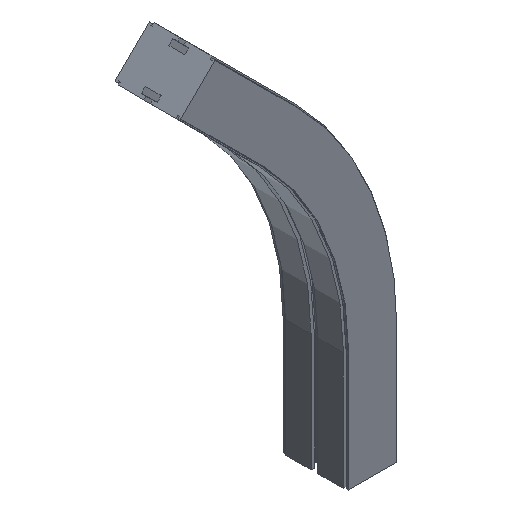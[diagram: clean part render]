
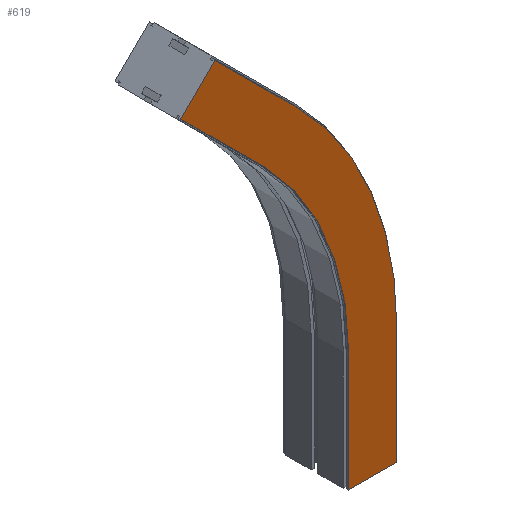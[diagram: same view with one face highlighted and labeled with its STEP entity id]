
A CAD part, isometric view. The second image highlights one B-rep face of the part: STEP entity #619.
In plain terms, the highlighted planar face has unit normal (0, -1, 0).
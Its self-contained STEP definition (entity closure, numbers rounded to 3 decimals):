
#32 = DIRECTION ( 'NONE',  ( 0., -1., 0. ) ) ;
#84 = DIRECTION ( 'NONE',  ( -0.707, 0., -0.707 ) ) ;
#122 = CARTESIAN_POINT ( 'NONE',  ( -244.896, -42., 517.236 ) ) ;
#197 = LINE ( 'NONE', #1123, #848 ) ;
#226 = VERTEX_POINT ( 'NONE', #2775 ) ;
#239 = EDGE_CURVE ( 'NONE', #226, #2346, #197, .T. ) ;
#273 = CARTESIAN_POINT ( 'NONE',  ( -138.83, -42., 411.17 ) ) ;
#275 = EDGE_CURVE ( 'NONE', #2586, #2346, #2296, .T. ) ;
#373 = LINE ( 'NONE', #755, #1785 ) ;
#422 = CARTESIAN_POINT ( 'NONE',  ( 30.65, -42., 150. ) ) ;
#492 = VECTOR ( 'NONE', #84, 1000. ) ;
#524 = PLANE ( 'NONE',  #2982 ) ;
#583 = CARTESIAN_POINT ( 'NONE',  ( -95.484, -42., 454.516 ) ) ;
#619 = ADVANCED_FACE ( 'NONE', ( #1636 ), #524, .T. ) ;
#725 = CARTESIAN_POINT ( 'NONE',  ( -30.65, -42., 150. ) ) ;
#755 = CARTESIAN_POINT ( 'NONE',  ( -95.484, -42., 454.516 ) ) ;
#759 = VERTEX_POINT ( 'NONE', #2991 ) ;
#778 = ORIENTED_EDGE ( 'NONE', *, *, #239, .F. ) ;
#797 = CARTESIAN_POINT ( 'NONE',  ( -30.65, -42., 150. ) ) ;
#815 = EDGE_CURVE ( 'NONE', #759, #2183, #2769, .T. ) ;
#848 = VECTOR ( 'NONE', #2806, 1000. ) ;
#914 = EDGE_CURVE ( 'NONE', #2623, #2183, #2020, .T. ) ;
#997 = DIRECTION ( 'NONE',  ( 0., -1., 0. ) ) ;
#1000 = ORIENTED_EDGE ( 'NONE', *, *, #914, .F. ) ;
#1029 = CARTESIAN_POINT ( 'NONE',  ( -400., -42., 150. ) ) ;
#1118 = EDGE_CURVE ( 'Edge42', #2260, #759, #373, .T. ) ;
#1123 = CARTESIAN_POINT ( 'NONE',  ( -30.65, -42., 0. ) ) ;
#1235 = DIRECTION ( 'NONE',  ( 0., 0., -1. ) ) ;
#1253 = DIRECTION ( 'NONE',  ( -0.707, 0., 0.707 ) ) ;
#1323 = CARTESIAN_POINT ( 'NONE',  ( -30.65, -42., 0. ) ) ;
#1441 = EDGE_LOOP ( 'NONE', ( #778, #2271, #2304, #3091, #2459, #1000, #2670, #1909 ) ) ;
#1452 = VECTOR ( 'NONE', #1885, 1000. ) ;
#1466 = AXIS2_PLACEMENT_3D ( 'NONE', #1029, #32, #2945 ) ;
#1469 = DIRECTION ( 'NONE',  ( 0., -1., 0. ) ) ;
#1592 = DIRECTION ( 'NONE',  ( 0., 0., -1. ) ) ;
#1636 = FACE_OUTER_BOUND ( 'NONE', #1441, .T. ) ;
#1638 = VECTOR ( 'NONE', #1592, 1000. ) ;
#1652 = EDGE_CURVE ( 'Edge18', #2153, #2260, #2963, .T. ) ;
#1682 = CARTESIAN_POINT ( 'NONE',  ( -400., -42., 150. ) ) ;
#1785 = VECTOR ( 'NONE', #1253, 1000. ) ;
#1813 = CARTESIAN_POINT ( 'NONE',  ( -30.65, -42., 150. ) ) ;
#1885 = DIRECTION ( 'NONE',  ( -0.707, 0., 0.707 ) ) ;
#1909 = ORIENTED_EDGE ( 'NONE', *, *, #275, .T. ) ;
#1973 = DIRECTION ( 'NONE',  ( 1., 0., 0. ) ) ;
#2020 = LINE ( 'NONE', #2124, #1452 ) ;
#2124 = CARTESIAN_POINT ( 'NONE',  ( -138.83, -42., 411.17 ) ) ;
#2153 = VERTEX_POINT ( 'NONE', #2658 ) ;
#2183 = VERTEX_POINT ( 'NONE', #2922 ) ;
#2260 = VERTEX_POINT ( 'NONE', #583 ) ;
#2271 = ORIENTED_EDGE ( 'NONE', *, *, #3106, .F. ) ;
#2296 = LINE ( 'NONE', #1813, #1638 ) ;
#2304 = ORIENTED_EDGE ( 'NONE', *, *, #1652, .T. ) ;
#2346 = VERTEX_POINT ( 'NONE', #1323 ) ;
#2459 = ORIENTED_EDGE ( 'NONE', *, *, #815, .T. ) ;
#2586 = VERTEX_POINT ( 'NONE', #725 ) ;
#2623 = VERTEX_POINT ( 'NONE', #273 ) ;
#2658 = CARTESIAN_POINT ( 'NONE',  ( 30.65, -42., 150. ) ) ;
#2670 = ORIENTED_EDGE ( 'NONE', *, *, #2962, .F. ) ;
#2769 = LINE ( 'NONE', #122, #492 ) ;
#2775 = CARTESIAN_POINT ( 'NONE',  ( 30.65, -42., 0. ) ) ;
#2793 = CIRCLE ( 'NONE', #1466, 369.35 ) ;
#2806 = DIRECTION ( 'NONE',  ( -1., 0., 0. ) ) ;
#2922 = CARTESIAN_POINT ( 'NONE',  ( -244.896, -42., 517.236 ) ) ;
#2945 = DIRECTION ( 'NONE',  ( 0., 0., -1. ) ) ;
#2962 = EDGE_CURVE ( 'NONE', #2586, #2623, #2793, .T. ) ;
#2963 = CIRCLE ( 'NONE', #3061, 430.65 ) ;
#2982 = AXIS2_PLACEMENT_3D ( 'NONE', #797, #997, #1973 ) ;
#2991 = CARTESIAN_POINT ( 'NONE',  ( -201.55, -42., 560.582 ) ) ;
#3026 = LINE ( 'NONE', #422, #3100 ) ;
#3061 = AXIS2_PLACEMENT_3D ( 'NONE', #1682, #1469, #1235 ) ;
#3079 = DIRECTION ( 'NONE',  ( 0., 0., -1. ) ) ;
#3091 = ORIENTED_EDGE ( 'NONE', *, *, #1118, .T. ) ;
#3100 = VECTOR ( 'NONE', #3079, 1000. ) ;
#3106 = EDGE_CURVE ( 'NONE', #2153, #226, #3026, .T. ) ;
